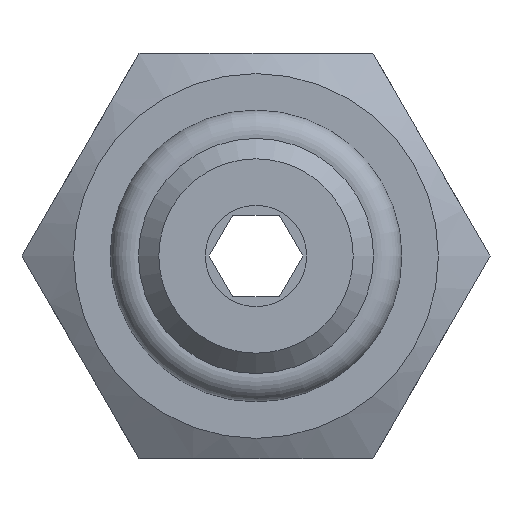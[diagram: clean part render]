
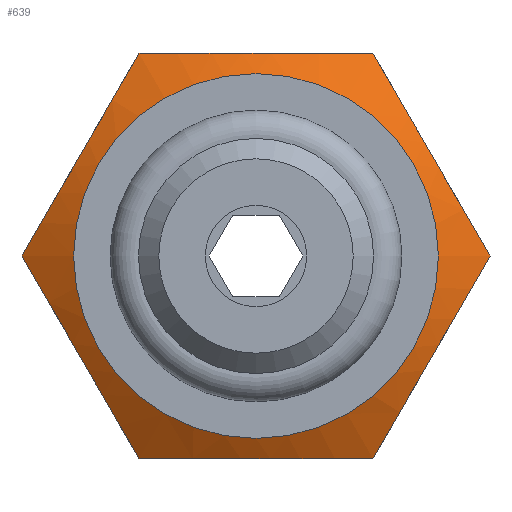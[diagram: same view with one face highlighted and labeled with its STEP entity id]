
A CAD part, front view. The second image highlights one B-rep face of the part: STEP entity #639.
In plain terms, the highlighted conical face has half-angle 60 degrees and reference radius 7.285 mm.
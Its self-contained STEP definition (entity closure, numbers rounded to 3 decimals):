
#14=(
BOUNDED_CURVE()
B_SPLINE_CURVE(2,(#1063,#1064,#1065),.UNSPECIFIED.,.F.,.F.)
B_SPLINE_CURVE_WITH_KNOTS((3,3),(0.496,1.348),
 .UNSPECIFIED.)
CURVE()
GEOMETRIC_REPRESENTATION_ITEM()
RATIONAL_B_SPLINE_CURVE((1.399,1.615,1.399))
REPRESENTATION_ITEM('')
);
#15=(
BOUNDED_CURVE()
B_SPLINE_CURVE(2,(#1067,#1068,#1069),.UNSPECIFIED.,.F.,.F.)
B_SPLINE_CURVE_WITH_KNOTS((3,3),(0.496,1.348),
 .UNSPECIFIED.)
CURVE()
GEOMETRIC_REPRESENTATION_ITEM()
RATIONAL_B_SPLINE_CURVE((1.399,1.615,1.399))
REPRESENTATION_ITEM('')
);
#16=(
BOUNDED_CURVE()
B_SPLINE_CURVE(2,(#1072,#1073,#1074),.UNSPECIFIED.,.F.,.F.)
B_SPLINE_CURVE_WITH_KNOTS((3,3),(0.496,1.348),
 .UNSPECIFIED.)
CURVE()
GEOMETRIC_REPRESENTATION_ITEM()
RATIONAL_B_SPLINE_CURVE((1.399,1.615,1.399))
REPRESENTATION_ITEM('')
);
#17=(
BOUNDED_CURVE()
B_SPLINE_CURVE(2,(#1076,#1077,#1078),.UNSPECIFIED.,.F.,.F.)
B_SPLINE_CURVE_WITH_KNOTS((3,3),(0.496,1.348),
 .UNSPECIFIED.)
CURVE()
GEOMETRIC_REPRESENTATION_ITEM()
RATIONAL_B_SPLINE_CURVE((1.399,1.615,1.399))
REPRESENTATION_ITEM('')
);
#18=(
BOUNDED_CURVE()
B_SPLINE_CURVE(2,(#1080,#1081,#1082),.UNSPECIFIED.,.F.,.F.)
B_SPLINE_CURVE_WITH_KNOTS((3,3),(0.496,1.348),
 .UNSPECIFIED.)
CURVE()
GEOMETRIC_REPRESENTATION_ITEM()
RATIONAL_B_SPLINE_CURVE((1.399,1.615,1.399))
REPRESENTATION_ITEM('')
);
#19=(
BOUNDED_CURVE()
B_SPLINE_CURVE(2,(#1083,#1084,#1085),.UNSPECIFIED.,.F.,.F.)
B_SPLINE_CURVE_WITH_KNOTS((3,3),(0.496,1.348),
 .UNSPECIFIED.)
CURVE()
GEOMETRIC_REPRESENTATION_ITEM()
RATIONAL_B_SPLINE_CURVE((1.399,1.615,1.399))
REPRESENTATION_ITEM('')
);
#64=CONICAL_SURFACE('',#723,7.285,1.047);
#95=LINE('',#1070,#130);
#130=VECTOR('',#872,7.285);
#165=FACE_OUTER_BOUND('',#206,.T.);
#206=EDGE_LOOP('',(#505,#506,#507,#508,#509,#510,#511,#512,#513,#514));
#256=CIRCLE('',#719,4.5);
#259=CIRCLE('',#722,4.5);
#307=VERTEX_POINT('',#1051);
#308=VERTEX_POINT('',#1052);
#311=VERTEX_POINT('',#1061);
#312=VERTEX_POINT('',#1062);
#313=VERTEX_POINT('',#1066);
#314=VERTEX_POINT('',#1071);
#315=VERTEX_POINT('',#1075);
#316=VERTEX_POINT('',#1079);
#383=EDGE_CURVE('',#307,#308,#256,.T.);
#387=EDGE_CURVE('',#308,#307,#259,.T.);
#388=EDGE_CURVE('',#311,#312,#14,.T.);
#389=EDGE_CURVE('',#313,#311,#15,.T.);
#390=EDGE_CURVE('',#313,#308,#95,.T.);
#391=EDGE_CURVE('',#314,#313,#16,.T.);
#392=EDGE_CURVE('',#315,#314,#17,.T.);
#393=EDGE_CURVE('',#316,#315,#18,.T.);
#394=EDGE_CURVE('',#312,#316,#19,.T.);
#505=ORIENTED_EDGE('',*,*,#388,.F.);
#506=ORIENTED_EDGE('',*,*,#389,.F.);
#507=ORIENTED_EDGE('',*,*,#390,.T.);
#508=ORIENTED_EDGE('',*,*,#383,.F.);
#509=ORIENTED_EDGE('',*,*,#387,.F.);
#510=ORIENTED_EDGE('',*,*,#390,.F.);
#511=ORIENTED_EDGE('',*,*,#391,.F.);
#512=ORIENTED_EDGE('',*,*,#392,.F.);
#513=ORIENTED_EDGE('',*,*,#393,.F.);
#514=ORIENTED_EDGE('',*,*,#394,.F.);
#639=ADVANCED_FACE('',(#165),#64,.T.);
#719=AXIS2_PLACEMENT_3D('',#1053,#861,#862);
#722=AXIS2_PLACEMENT_3D('',#1059,#868,#869);
#723=AXIS2_PLACEMENT_3D('',#1060,#870,#871);
#861=DIRECTION('center_axis',(0.,-1.,0.));
#862=DIRECTION('ref_axis',(1.,0.,0.));
#868=DIRECTION('center_axis',(0.,-1.,0.));
#869=DIRECTION('ref_axis',(1.,0.,0.));
#870=DIRECTION('center_axis',(0.,1.,0.));
#871=DIRECTION('ref_axis',(1.,0.,0.));
#872=DIRECTION('',(0.866,-0.5,0.));
#1051=CARTESIAN_POINT('',(4.5,5.5,0.));
#1052=CARTESIAN_POINT('',(-4.5,5.5,0.));
#1053=CARTESIAN_POINT('Origin',(0.,5.5,0.));
#1059=CARTESIAN_POINT('Origin',(0.,5.5,0.));
#1060=CARTESIAN_POINT('Origin',(0.,7.108,0.));
#1061=CARTESIAN_POINT('',(-2.887,6.235,5.));
#1062=CARTESIAN_POINT('',(2.887,6.235,5.));
#1063=CARTESIAN_POINT('Ctrl Pts',(-2.887,6.235,5.));
#1064=CARTESIAN_POINT('Ctrl Pts',(0.,5.402,
5.));
#1065=CARTESIAN_POINT('Ctrl Pts',(2.887,6.235,5.));
#1066=CARTESIAN_POINT('',(-5.774,6.235,0.));
#1067=CARTESIAN_POINT('Ctrl Pts',(-5.774,6.235,0.));
#1068=CARTESIAN_POINT('Ctrl Pts',(-4.33,5.402,2.5));
#1069=CARTESIAN_POINT('Ctrl Pts',(-2.887,6.235,5.));
#1070=CARTESIAN_POINT('',(-7.285,7.108,0.));
#1071=CARTESIAN_POINT('',(-2.887,6.235,-5.));
#1072=CARTESIAN_POINT('Ctrl Pts',(-2.887,6.235,-5.));
#1073=CARTESIAN_POINT('Ctrl Pts',(-4.33,5.402,-2.5));
#1074=CARTESIAN_POINT('Ctrl Pts',(-5.774,6.235,0.));
#1075=CARTESIAN_POINT('',(2.887,6.235,-5.));
#1076=CARTESIAN_POINT('Ctrl Pts',(2.887,6.235,-5.));
#1077=CARTESIAN_POINT('Ctrl Pts',(0.,5.402,
-5.));
#1078=CARTESIAN_POINT('Ctrl Pts',(-2.887,6.235,-5.));
#1079=CARTESIAN_POINT('',(5.774,6.235,0.));
#1080=CARTESIAN_POINT('Ctrl Pts',(5.774,6.235,0.));
#1081=CARTESIAN_POINT('Ctrl Pts',(4.33,5.402,-2.5));
#1082=CARTESIAN_POINT('Ctrl Pts',(2.887,6.235,-5.));
#1083=CARTESIAN_POINT('Ctrl Pts',(2.887,6.235,5.));
#1084=CARTESIAN_POINT('Ctrl Pts',(4.33,5.402,2.5));
#1085=CARTESIAN_POINT('Ctrl Pts',(5.774,6.235,0.));
